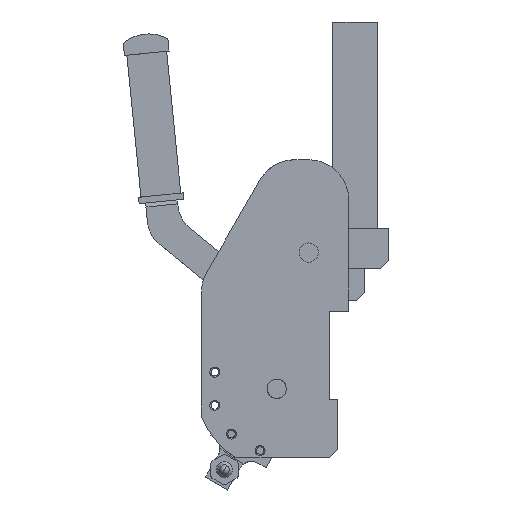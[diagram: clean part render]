
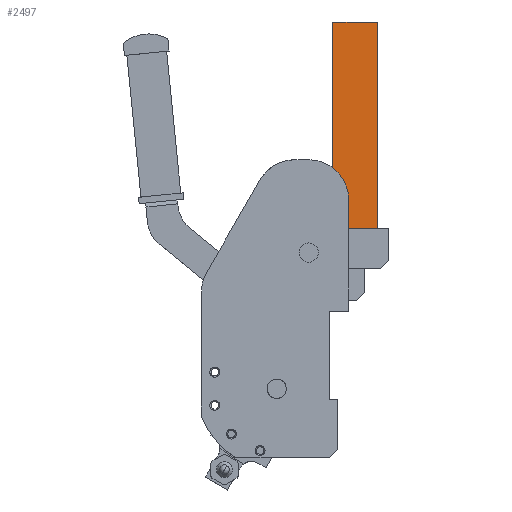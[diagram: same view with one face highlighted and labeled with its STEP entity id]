
A CAD part, top view. The second image highlights one B-rep face of the part: STEP entity #2497.
In plain terms, the highlighted planar face has unit normal (0, 0, 1) as drawn and (0, 0, -1) by its records, which use the part's own axes.
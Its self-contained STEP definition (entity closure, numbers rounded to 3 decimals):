
#115 = CARTESIAN_POINT ( 'NONE',  ( 129., 0., -10. ) ) ;
#118 = VECTOR ( 'NONE', #2943, 1000. ) ;
#192 = ORIENTED_EDGE ( 'NONE', *, *, #6508, .F. ) ;
#456 = PLANE ( 'NONE',  #8564 ) ;
#925 = VECTOR ( 'NONE', #11697, 1000. ) ;
#1208 = LINE ( 'NONE', #6044, #925 ) ;
#1227 = ORIENTED_EDGE ( 'NONE', *, *, #11896, .T. ) ;
#1934 = CARTESIAN_POINT ( 'NONE',  ( 0., 28., -10. ) ) ;
#2139 = CARTESIAN_POINT ( 'NONE',  ( 0., 0., -10. ) ) ;
#2497 = ADVANCED_FACE ( 'NONE', ( #2685 ), #456, .F. ) ;
#2546 = CARTESIAN_POINT ( 'NONE',  ( 129., 28., -10. ) ) ;
#2685 = FACE_OUTER_BOUND ( 'NONE', #9572, .T. ) ;
#2786 = EDGE_CURVE ( 'NONE', #5406, #6502, #4458, .T. ) ;
#2888 = DIRECTION ( 'NONE',  ( 1., 0., 0. ) ) ;
#2943 = DIRECTION ( 'NONE',  ( 0., -1., 0. ) ) ;
#3190 = ORIENTED_EDGE ( 'NONE', *, *, #2786, .T. ) ;
#3262 = EDGE_CURVE ( 'NONE', #6502, #8909, #9777, .T. ) ;
#4242 = CARTESIAN_POINT ( 'NONE',  ( 129., 28., -10. ) ) ;
#4458 = LINE ( 'NONE', #1934, #6993 ) ;
#5406 = VERTEX_POINT ( 'NONE', #5607 ) ;
#5607 = CARTESIAN_POINT ( 'NONE',  ( 0., 28., -10. ) ) ;
#5788 = CARTESIAN_POINT ( 'NONE',  ( 129., 28., -10. ) ) ;
#6044 = CARTESIAN_POINT ( 'NONE',  ( 129., 0., -10. ) ) ;
#6402 = ORIENTED_EDGE ( 'NONE', *, *, #3262, .T. ) ;
#6502 = VERTEX_POINT ( 'NONE', #5788 ) ;
#6508 = EDGE_CURVE ( 'NONE', #5406, #10450, #7438, .T. ) ;
#6993 = VECTOR ( 'NONE', #2888, 1000. ) ;
#7283 = VECTOR ( 'NONE', #7351, 1000. ) ;
#7351 = DIRECTION ( 'NONE',  ( 0., -1., 0. ) ) ;
#7438 = LINE ( 'NONE', #8668, #118 ) ;
#8564 = AXIS2_PLACEMENT_3D ( 'NONE', #4242, #9038, #11155 ) ;
#8668 = CARTESIAN_POINT ( 'NONE',  ( 0., 28., -10. ) ) ;
#8909 = VERTEX_POINT ( 'NONE', #115 ) ;
#9038 = DIRECTION ( 'NONE',  ( 0., 0., 1. ) ) ;
#9572 = EDGE_LOOP ( 'NONE', ( #6402, #1227, #192, #3190 ) ) ;
#9777 = LINE ( 'NONE', #2546, #7283 ) ;
#10450 = VERTEX_POINT ( 'NONE', #2139 ) ;
#11155 = DIRECTION ( 'NONE',  ( 1., 0., 0. ) ) ;
#11697 = DIRECTION ( 'NONE',  ( -1., 0., 0. ) ) ;
#11896 = EDGE_CURVE ( 'NONE', #8909, #10450, #1208, .T. ) ;
